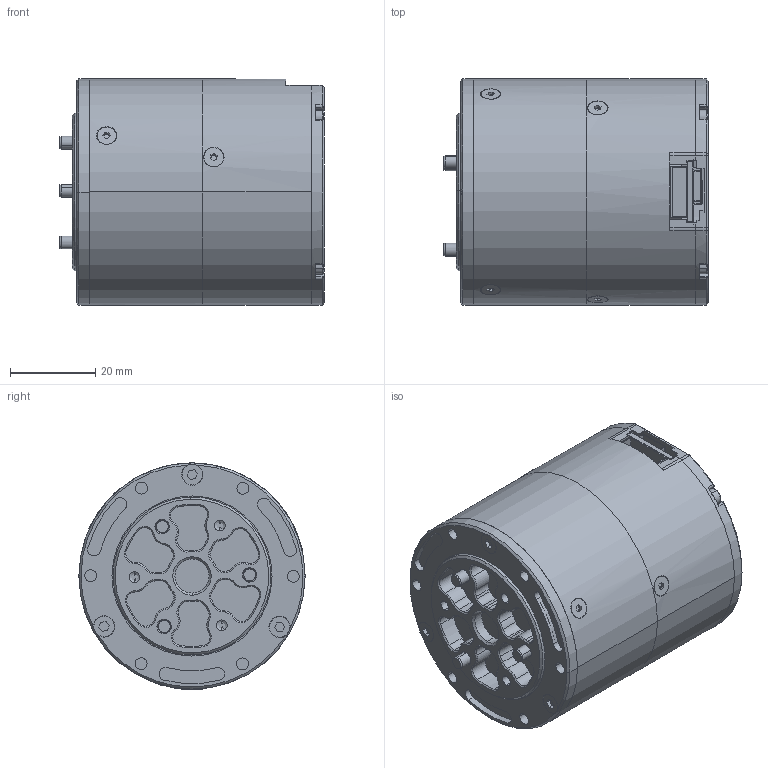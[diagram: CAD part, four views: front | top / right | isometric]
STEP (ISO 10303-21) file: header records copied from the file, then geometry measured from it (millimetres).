
FILE_DESCRIPTION (( 'STEP AP214' ), '1' );
FILE_NAME ('MG4010E-i10B.STEP', '2024-07-18T02:36:32', ( 'zhang_jianheng@outlook.com' ), ( 'HP' ), 'SwSTEP 2.0', 'SolidWorks 2020', '' );
FILE_SCHEMA (( 'AUTOMOTIVE_DESIGN' ));
Length unit declared in the file: millimetre
Products named in the file (1): MG4010E-i10B
Bounding box: 62 x 53 x 53 mm (x, y, z)
Volume: 112136 mm3; surface area: 39675.7 mm2
Topology: 30 solids, 30 shells, 1335 faces, 3307 edges, 2086 vertices
Faces by surface type: cylinder 539, plane 468, cone 246, bspline 82
Entity records: 62388 total; most frequent: CARTESIAN_POINT 15655, DIRECTION 6744, ORIENTED_EDGE 6510, EDGE_CURVE 3255, AXIS2_PLACEMENT_3D 2543, VERTEX_POINT 2086, LINE 1658, VECTOR 1658
